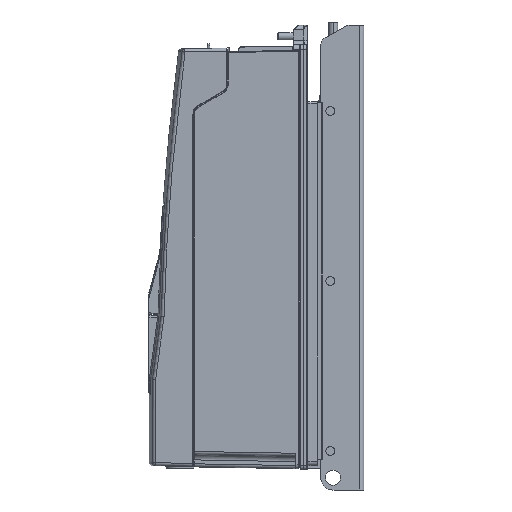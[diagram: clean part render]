
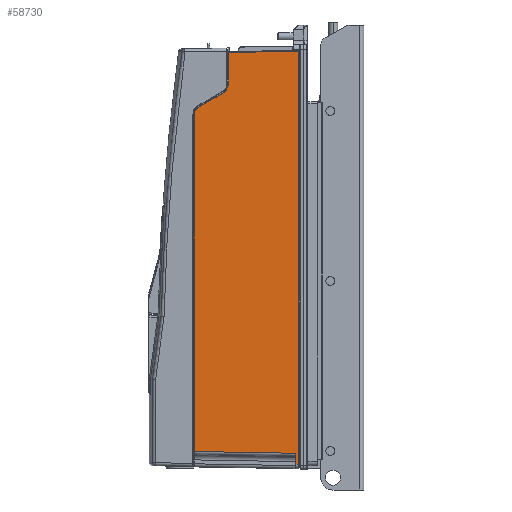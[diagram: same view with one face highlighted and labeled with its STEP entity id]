
A CAD part, left-side view. The second image highlights one B-rep face of the part: STEP entity #58730.
In plain terms, the highlighted planar face has unit normal (-1, 0.018, 0) as drawn and (1, 0.018, 0) by its records, which use the part's own axes.
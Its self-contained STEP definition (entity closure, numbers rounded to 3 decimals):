
#624 =( BOUNDED_CURVE ( )  B_SPLINE_CURVE ( 3, ( #48738, #40265, #71847, #40756 ),
 .UNSPECIFIED., .F., .F. ) 
 B_SPLINE_CURVE_WITH_KNOTS ( ( 4, 4 ),
 ( 0., 1.047 ),
 .UNSPECIFIED. ) 
 CURVE ( )  GEOMETRIC_REPRESENTATION_ITEM ( )  RATIONAL_B_SPLINE_CURVE ( ( 1., 0.911, 0.911, 1. ) ) 
 REPRESENTATION_ITEM ( '' )  );
#630 = VECTOR ( 'NONE', #49337, 1000. ) ;
#3549 = CARTESIAN_POINT ( 'NONE',  ( 123.269, 1.704, 471. ) ) ;
#5756 = ORIENTED_EDGE ( 'NONE', *, *, #35814, .T. ) ;
#6203 = CARTESIAN_POINT ( 'NONE',  ( 120.989, 129.004, 1.902 ) ) ;
#11375 = CARTESIAN_POINT ( 'NONE',  ( 123.269, 1.704, 465.997 ) ) ;
#12832 = ORIENTED_EDGE ( 'NONE', *, *, #15232, .T. ) ;
#13438 = CARTESIAN_POINT ( 'NONE',  ( 123.214, 4.804, 455.156 ) ) ;
#14980 = VERTEX_POINT ( 'NONE', #74912 ) ;
#15232 = EDGE_CURVE ( 'NONE', #39914, #95929, #624, .T. ) ;
#15585 = ORIENTED_EDGE ( 'NONE', *, *, #39241, .T. ) ;
#17104 = LINE ( 'NONE', #3549, #55224 ) ;
#17639 = CARTESIAN_POINT ( 'NONE',  ( 123.21, 5.009, 454.037 ) ) ;
#20724 = VERTEX_POINT ( 'NONE', #59762 ) ;
#21472 = CARTESIAN_POINT ( 'NONE',  ( 121.241, 114.904, 62.726 ) ) ;
#21552 = PLANE ( 'NONE',  #33114 ) ;
#21983 = VECTOR ( 'NONE', #77623, 1000. ) ;
#22055 = CARTESIAN_POINT ( 'NONE',  ( 121.15, 120., 471. ) ) ;
#23888 = VECTOR ( 'NONE', #27301, 1000. ) ;
#26064 = CARTESIAN_POINT ( 'NONE',  ( 121.15, 120., 37.726 ) ) ;
#26924 = DIRECTION ( 'NONE',  ( 0., 0., 1. ) ) ;
#27141 = CARTESIAN_POINT ( 'NONE',  ( 121.186, 118.01, 64.519 ) ) ;
#27301 = DIRECTION ( 'NONE',  ( 0., 0., 1. ) ) ;
#29196 = VECTOR ( 'NONE', #26924, 1000. ) ;
#30047 = CARTESIAN_POINT ( 'NONE',  ( 121.241, 114.904, 62.726 ) ) ;
#30229 = DIRECTION ( 'NONE',  ( -0.018, 1., 0.019 ) ) ;
#30894 = EDGE_CURVE ( 'NONE', #76528, #47108, #89506, .T. ) ;
#30903 = VERTEX_POINT ( 'NONE', #11375 ) ;
#31027 = EDGE_LOOP ( 'NONE', ( #70371, #12832, #46795, #90925, #15585, #53846, #56372, #43277, #89323, #5756, #66796, #35554 ) ) ;
#32856 = CARTESIAN_POINT ( 'NONE',  ( 121.84, 81.5, 471. ) ) ;
#33114 = AXIS2_PLACEMENT_3D ( 'NONE', #22055, #52575, #83160 ) ;
#34573 = VECTOR ( 'NONE', #45744, 1000. ) ;
#35554 = ORIENTED_EDGE ( 'NONE', *, *, #42793, .F. ) ;
#35713 = LINE ( 'NONE', #6203, #84012 ) ;
#35814 = EDGE_CURVE ( 'NONE', #30903, #14980, #17104, .T. ) ;
#37877 = VERTEX_POINT ( 'NONE', #30047 ) ;
#38116 = CARTESIAN_POINT ( 'NONE',  ( 121.154, 119.804, 451.497 ) ) ;
#39241 = EDGE_CURVE ( 'NONE', #47864, #40784, #41827, .T. ) ;
#39914 = VERTEX_POINT ( 'NONE', #85731 ) ;
#40265 = CARTESIAN_POINT ( 'NONE',  ( 121.834, 81.804, 41.46 ) ) ;
#40756 = CARTESIAN_POINT ( 'NONE',  ( 121.743, 86.904, 46.56 ) ) ;
#40784 = VERTEX_POINT ( 'NONE', #38116 ) ;
#41827 = LINE ( 'NONE', #94957, #23888 ) ;
#42793 = EDGE_CURVE ( 'NONE', #91768, #20724, #86967, .T. ) ;
#43277 = ORIENTED_EDGE ( 'NONE', *, *, #30894, .T. ) ;
#43284 = DIRECTION ( 'NONE',  ( 0.018, -1., 0.017 ) ) ;
#45744 = DIRECTION ( 'NONE',  ( -0.016, 0.866, 0.5 ) ) ;
#45952 = EDGE_CURVE ( 'NONE', #14980, #20724, #35713, .T. ) ;
#46795 = ORIENTED_EDGE ( 'NONE', *, *, #88366, .T. ) ;
#47108 = VERTEX_POINT ( 'NONE', #83530 ) ;
#47864 = VERTEX_POINT ( 'NONE', #63537 ) ;
#48013 = LINE ( 'NONE', #85132, #21983 ) ;
#48738 = CARTESIAN_POINT ( 'NONE',  ( 121.834, 81.804, 37.726 ) ) ;
#48940 = B_SPLINE_CURVE_WITH_KNOTS ( 'NONE', 3,
 ( #63248, #51508, #17639, #89099, #50511, #13438 ),
 .UNSPECIFIED., .F., .F.,
 ( 4, 2, 4 ),
 ( 0., 0.001, 0.002 ),
 .UNSPECIFIED. ) ;
#49337 = DIRECTION ( 'NONE',  ( 0., 0., -1. ) ) ;
#50045 = DIRECTION ( 'NONE',  ( 0.018, -1., 0. ) ) ;
#50511 = CARTESIAN_POINT ( 'NONE',  ( 123.214, 4.804, 454.869 ) ) ;
#51508 = CARTESIAN_POINT ( 'NONE',  ( 123.209, 5.102, 453.767 ) ) ;
#52575 = DIRECTION ( 'NONE',  ( -1., -0.018, 0. ) ) ;
#53846 = ORIENTED_EDGE ( 'NONE', *, *, #77761, .T. ) ;
#55224 = VECTOR ( 'NONE', #71722, 1000. ) ;
#56372 = ORIENTED_EDGE ( 'NONE', *, *, #85653, .T. ) ;
#57102 = LINE ( 'NONE', #26064, #63182 ) ;
#57468 = CARTESIAN_POINT ( 'NONE',  ( 123.214, 4.804, 471. ) ) ;
#58730 = ADVANCED_FACE ( 'NONE', ( #60109 ), #21552, .F. ) ;
#58859 = EDGE_CURVE ( 'NONE', #47108, #30903, #48013, .T. ) ;
#59762 = CARTESIAN_POINT ( 'NONE',  ( 121.84, 81.5, 0.99 ) ) ;
#60109 = FACE_OUTER_BOUND ( 'NONE', #31027, .T. ) ;
#63182 = VECTOR ( 'NONE', #50045, 1000. ) ;
#63193 = CARTESIAN_POINT ( 'NONE',  ( 123.207, 5.196, 453.497 ) ) ;
#63248 = CARTESIAN_POINT ( 'NONE',  ( 123.207, 5.196, 453.497 ) ) ;
#63537 = CARTESIAN_POINT ( 'NONE',  ( 121.154, 119.804, 71.213 ) ) ;
#65856 = LINE ( 'NONE', #89877, #94940 ) ;
#66796 = ORIENTED_EDGE ( 'NONE', *, *, #45952, .T. ) ;
#67007 = CARTESIAN_POINT ( 'NONE',  ( 123.214, 4.804, 455.156 ) ) ;
#68569 = CARTESIAN_POINT ( 'NONE',  ( 121.154, 119.804, 67.626 ) ) ;
#69814 = CARTESIAN_POINT ( 'NONE',  ( 121.241, 114.901, 62.724 ) ) ;
#70371 = ORIENTED_EDGE ( 'NONE', *, *, #84606, .F. ) ;
#70374 =( BOUNDED_CURVE ( )  B_SPLINE_CURVE ( 3, ( #21472, #27141, #68569, #76569 ),
 .UNSPECIFIED., .F., .T. ) 
 B_SPLINE_CURVE_WITH_KNOTS ( ( 4, 4 ),
 ( 2.094, 3.142 ),
 .UNSPECIFIED. ) 
 CURVE ( )  GEOMETRIC_REPRESENTATION_ITEM ( )  RATIONAL_B_SPLINE_CURVE ( ( 1., 0.911, 0.911, 1. ) ) 
 REPRESENTATION_ITEM ( '' )  );
#71722 = DIRECTION ( 'NONE',  ( 0., 0., -1. ) ) ;
#71847 = CARTESIAN_POINT ( 'NONE',  ( 121.801, 83.67, 44.693 ) ) ;
#74912 = CARTESIAN_POINT ( 'NONE',  ( 123.269, 1.704, -0.542 ) ) ;
#76138 = VERTEX_POINT ( 'NONE', #63193 ) ;
#76528 = VERTEX_POINT ( 'NONE', #67007 ) ;
#76569 = CARTESIAN_POINT ( 'NONE',  ( 121.154, 119.804, 71.213 ) ) ;
#77623 = DIRECTION ( 'NONE',  ( 0.018, -1., 0.017 ) ) ;
#77761 = EDGE_CURVE ( 'NONE', #40784, #76138, #65856, .T. ) ;
#81687 = CARTESIAN_POINT ( 'NONE',  ( 121.84, 81.5, 37.726 ) ) ;
#83160 = DIRECTION ( 'NONE',  ( 0.018, -1., 0. ) ) ;
#83530 = CARTESIAN_POINT ( 'NONE',  ( 123.214, 4.804, 465.943 ) ) ;
#83847 = LINE ( 'NONE', #69814, #34573 ) ;
#84012 = VECTOR ( 'NONE', #30229, 1000. ) ;
#84606 = EDGE_CURVE ( 'NONE', #39914, #91768, #57102, .T. ) ;
#85132 = CARTESIAN_POINT ( 'NONE',  ( 123.275, 1.413, 466.002 ) ) ;
#85653 = EDGE_CURVE ( 'NONE', #76138, #76528, #48940, .T. ) ;
#85731 = CARTESIAN_POINT ( 'NONE',  ( 121.834, 81.804, 37.726 ) ) ;
#86967 = LINE ( 'NONE', #32856, #630 ) ;
#87595 = EDGE_CURVE ( 'NONE', #37877, #47864, #70374, .T. ) ;
#88366 = EDGE_CURVE ( 'NONE', #95929, #37877, #83847, .T. ) ;
#89099 = CARTESIAN_POINT ( 'NONE',  ( 123.213, 4.86, 454.589 ) ) ;
#89323 = ORIENTED_EDGE ( 'NONE', *, *, #58859, .T. ) ;
#89506 = LINE ( 'NONE', #57468, #29196 ) ;
#89877 = CARTESIAN_POINT ( 'NONE',  ( 123.212, 4.939, 453.502 ) ) ;
#90925 = ORIENTED_EDGE ( 'NONE', *, *, #87595, .T. ) ;
#91198 = CARTESIAN_POINT ( 'NONE',  ( 121.743, 86.904, 46.56 ) ) ;
#91768 = VERTEX_POINT ( 'NONE', #81687 ) ;
#94940 = VECTOR ( 'NONE', #43284, 1000. ) ;
#94957 = CARTESIAN_POINT ( 'NONE',  ( 121.154, 119.804, 471. ) ) ;
#95929 = VERTEX_POINT ( 'NONE', #91198 ) ;
